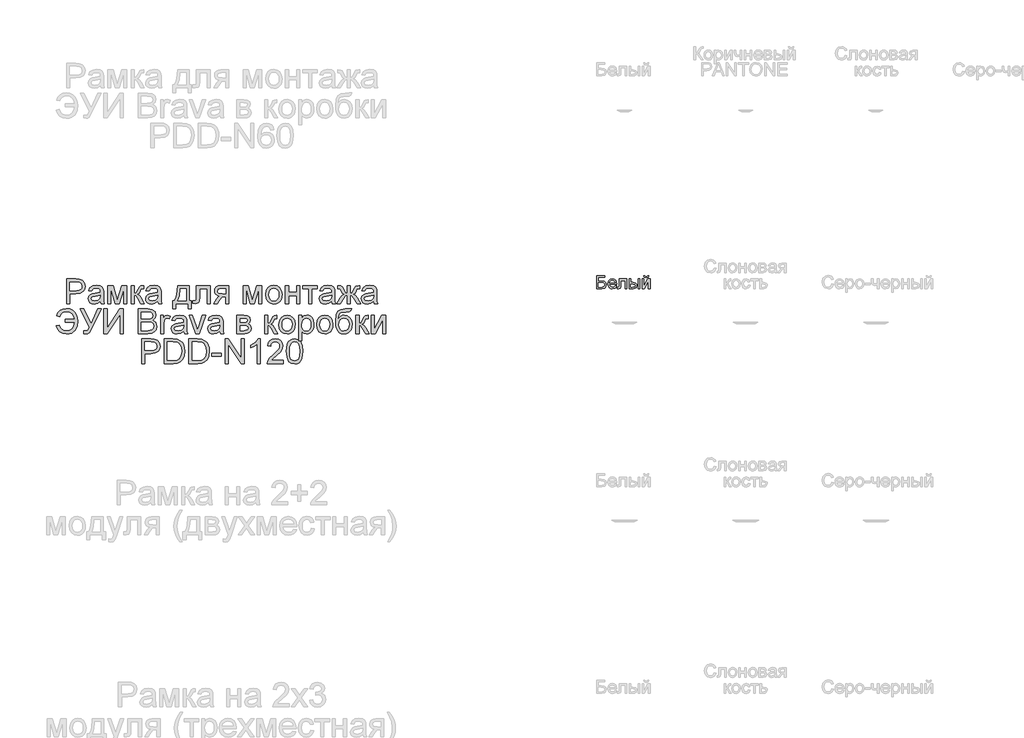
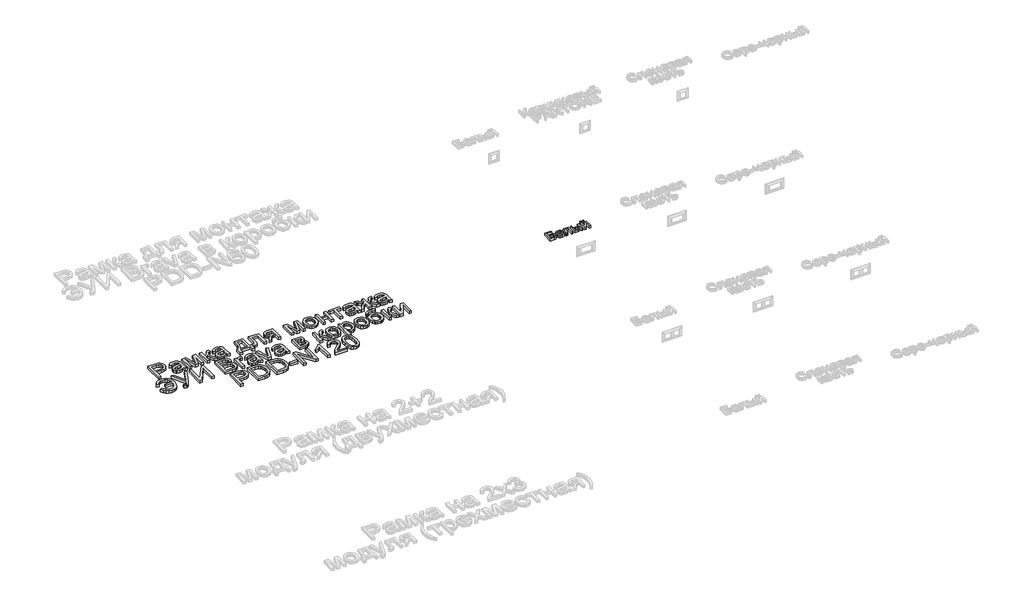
# One storey, part 42 of 47: 2 proxies.
"""IFC4 building model written with IfcOpenShell, lengths in millimetres."""

from ifc_helpers import new_model, si_unit, origin, origin_with_axes, place, context, project, spatial, polyline, outline, extrude, element, save

model = new_model("IFC4")

# Units and contexts
model_context = context("Model", 3, world=origin())
ifc_project = project(units=[si_unit("LENGTHUNIT", "METRE", prefix="MILLI")], contexts=[model_context])

# Site, building, storey
site = spatial("IfcSite", under=ifc_project)
building = spatial("IfcBuilding", under=site)
storey = spatial("IfcBuildingStorey", under=building, Name="Этаж 01", Elevation=0.0)

# Proxies
placement = place(None, origin())
element("IfcBuildingElementProxy", 1, Name="150 мм Arial", ObjectType="150 мм Arial", at=placement, inside=storey, context=model_context, shape_type="SweptSolid", body=[
    extrude(outline(polyline([(-3403.4986695, 2864.9541451), (-3403.4986695, 3015.6386103), (-3347.6541827, 3015.6386103), (-3325.1398046, 3014.2038705), (-3306.8376753, 3007.1589303), (-3294.973481, 2992.5908033), (-3290.4853206, 2972.0445939), (-3293.5157486, 2954.2850906), (-3302.6070324, 2939.4870373), (-3319.6077791, 2929.4990411), (-3346.3665957, 2926.1697091), (-3384.6631114, 2926.1697091), (-3384.6631114, 2864.9541451), (-3403.4986695, 2864.9541451)]), holes=[polyline([(-3384.6631114, 2945.0052672), (-3345.2629497, 2945.0052672), (-3328.5611071, 2946.7343126), (-3317.5246473, 2951.9214487), (-3311.3718209, 2960.2447789), (-3309.3208788, 2971.3824063), (-3314.158527, 2986.9806029), (-3326.8688499, 2995.5154652), (-3345.7044081, 2996.8030522), (-3384.6631114, 2996.8030522), (-3384.6631114, 2945.0052672)])]), origin_with_axes(), (0.0, 0.0, 1.0), 20.0),
    extrude(outline(polyline([(-3196.3075299, 2879.0808137), (-3214.5728709, 2866.3153085), (-3234.7511984, 2862.5997003), (-3250.4919492, 2864.8345834), (-3262.1032247, 2871.5392328), (-3269.263128, 2881.720367), (-3271.6497625, 2894.3847047), (-3268.0445189, 2909.2839255), (-3258.5715575, 2920.0996562), (-3245.382988, 2926.2800737), (-3229.0858156, 2929.112765), (-3196.4178945, 2935.5874882), (-3196.3075299, 2939.7813429), (-3197.6043139, 2948.1874465), (-3201.494666, 2953.6872823), (-3210.1950752, 2957.7707725), (-3222.3167869, 2959.1319359), (-3241.3730743, 2955.5082982), (-3250.4597595, 2942.6508225), (-3269.2953177, 2945.0052672), (-3261.1467315, 2963.399367), (-3244.7391945, 2974.1783095), (-3219.8887657, 2977.967494), (-3197.0616879, 2974.6197678), (-3184.167424, 2966.2136643), (-3178.3916767, 2953.4297649), (-3177.4719717, 2936.9486515), (-3177.4719717, 2913.5145685), (-3176.5154785, 2880.791465), (-3172.7630822, 2864.9541451), (-3191.5986403, 2864.9541451), (-3196.3075299, 2879.0808137)]), holes=[polyline([(-3196.3075299, 2916.75193), (-3226.6945827, 2910.9761827), (-3242.8997845, 2907.9227621), (-3250.2390304, 2902.9563552), (-3252.8142043, 2895.7090799), (-3247.2040039, 2885.5187486), (-3230.7412846, 2881.4352585), (-3211.6849973, 2885.9418129), (-3199.3977386, 2896.8495141), (-3196.4178945, 2911.4176411), (-3196.3075299, 2916.75193)])]), origin_with_axes(), (0.0, 0.0, 1.0), 20.0),
    extrude(outline(polyline([(-3151.5730792, 2975.6130492), (-3119.1626755, 2975.6130492), (-3094.183488, 2887.0270648), (-3067.2545259, 2975.6130492), (-3036.2052856, 2975.6130492), (-3036.2052856, 2864.9541451), (-3055.0408437, 2864.9541451), (-3055.0408437, 2954.0551643), (-3082.1169586, 2864.9541451), (-3106.8386286, 2864.9541451), (-3132.7375211, 2958.3225955), (-3132.7375211, 2864.9541451), (-3151.5730792, 2864.9541451), (-3151.5730792, 2975.6130492)])), origin_with_axes(), (0.0, 0.0, 1.0), 20.0),
    extrude(outline(polyline([(-3007.9519483, 2975.6130492), (-2989.1163902, 2975.6130492), (-2989.1163902, 2928.5241539), (-2976.4980377, 2931.9086682), (-2966.1605537, 2951.6271432), (-2957.5705091, 2968.6416854), (-2949.99214, 2974.1783095), (-2936.2149593, 2975.6130492), (-2932.6097157, 2975.6130492), (-2932.6097157, 2956.6671265), (-2937.6864872, 2956.7774911), (-2946.8835371, 2954.7909283), (-2953.3582602, 2942.3933051), (-2960.9550234, 2928.9840063), (-2971.6052072, 2922.4173127), (-2959.7226188, 2915.087264), (-2948.0607595, 2899.6454172), (-2927.9008262, 2864.9541451), (-2949.3115583, 2864.9541451), (-2969.0668214, 2898.9096532), (-2978.9996353, 2913.2754452), (-2989.1163902, 2916.75193), (-2989.1163902, 2864.9541451), (-3007.9519483, 2864.9541451), (-3007.9519483, 2975.6130492)])), origin_with_axes(), (0.0, 0.0, 1.0), 20.0),
    extrude(outline(polyline([(-2845.4952593, 2879.0808137), (-2863.7606003, 2866.3153085), (-2883.9389278, 2862.5997003), (-2899.6796786, 2864.8345834), (-2911.2909541, 2871.5392328), (-2918.4508574, 2881.720367), (-2920.8374919, 2894.3847047), (-2917.2322483, 2909.2839255), (-2907.7592869, 2920.0996562), (-2894.5707174, 2926.2800737), (-2878.273545, 2929.112765), (-2845.6056239, 2935.5874882), (-2845.4952593, 2939.7813429), (-2846.7920433, 2948.1874465), (-2850.6823954, 2953.6872823), (-2859.3828046, 2957.7707725), (-2871.5045163, 2959.1319359), (-2890.5608037, 2955.5082982), (-2899.6474889, 2942.6508225), (-2918.4830471, 2945.0052672), (-2910.3344609, 2963.399367), (-2893.9269239, 2974.1783095), (-2869.0764951, 2977.967494), (-2846.2494173, 2974.6197678), (-2833.3551534, 2966.2136643), (-2827.5794061, 2953.4297649), (-2826.6597011, 2936.9486515), (-2826.6597011, 2913.5145685), (-2825.7032079, 2880.791465), (-2821.9508116, 2864.9541451), (-2840.7863697, 2864.9541451), (-2845.4952593, 2879.0808137)]), holes=[polyline([(-2845.4952593, 2916.75193), (-2875.8823121, 2910.9761827), (-2892.0875139, 2907.9227621), (-2899.4267598, 2902.9563552), (-2902.0019337, 2895.7090799), (-2896.3917333, 2885.5187486), (-2879.929014, 2881.4352585), (-2860.8727267, 2885.9418129), (-2848.585468, 2896.8495141), (-2845.6056239, 2911.4176411), (-2845.4952593, 2916.75193)])]), origin_with_axes(), (0.0, 0.0, 1.0), 20.0),
    extrude(outline(polyline([(-2725.418576, 2975.6130492), (-2654.785233, 2975.6130492), (-2654.785233, 2883.7897032), (-2640.6585643, 2883.7897032), (-2640.6585643, 2834.3463631), (-2659.4941225, 2834.3463631), (-2659.4941225, 2864.9541451), (-2737.1907999, 2864.9541451), (-2737.1907999, 2834.3463631), (-2756.026358, 2834.3463631), (-2756.026358, 2883.7897032), (-2744.2541342, 2883.7897032), (-2735.6962793, 2899.2545426), (-2729.7044013, 2919.7133801), (-2725.418576, 2975.6130492)]), holes=[polyline([(-2708.9374626, 2956.7774911), (-2713.3520466, 2913.8640563), (-2723.0641313, 2883.7897032), (-2673.6207911, 2883.7897032), (-2673.6207911, 2956.7774911), (-2708.9374626, 2956.7774911)])]), origin_with_axes(), (0.0, 0.0, 1.0), 20.0),
    extrude(outline(polyline([(-2610.0507823, 2975.6130492), (-2525.2907707, 2975.6130492), (-2525.2907707, 2865.0645097), (-2544.1263288, 2865.0645097), (-2544.1263288, 2956.7774911), (-2591.2152242, 2956.7774911), (-2591.2152242, 2903.9864248), (-2592.4844171, 2879.6326367), (-2599.4557809, 2869.3503349), (-2615.9368943, 2864.9541451), (-2631.2407853, 2865.9106383), (-2631.2407853, 2883.7897032), (-2622.8162876, 2883.7897032), (-2614.2998194, 2884.9485315), (-2610.8969109, 2888.6273515), (-2610.0507823, 2905.0532826), (-2610.0507823, 2975.6130492)])), origin_with_axes(), (0.0, 0.0, 1.0), 20.0),
    extrude(outline(polyline([(-2412.2774217, 2975.6130492), (-2412.2774217, 2864.9541451), (-2431.1129799, 2864.9541451), (-2431.1129799, 2907.3341509), (-2441.3768876, 2907.3341509), (-2455.3564034, 2904.942918), (-2468.4897906, 2888.8664748), (-2483.499376, 2864.9541451), (-2505.2779901, 2864.9541451), (-2486.3688556, 2895.1940451), (-2478.0179343, 2906.0465639), (-2470.3292006, 2910.8658181), (-2483.2050704, 2914.8113525), (-2492.2549675, 2922.3069481), (-2497.6076505, 2932.2765502), (-2499.3918782, 2943.6441039), (-2496.95466, 2956.5383678), (-2489.6430053, 2966.7470932), (-2477.7144316, 2973.3965602), (-2461.4264563, 2975.6130492), (-2412.2774217, 2975.6130492)]), holes=[polyline([(-2431.1129799, 2956.7774911), (-2455.9450146, 2956.7774911), (-2468.7703006, 2955.6876407), (-2476.0497656, 2952.4180894), (-2480.55632, 2942.2093641), (-2478.8962525, 2935.0310666), (-2473.91605, 2930.0508641), (-2450.3899964, 2926.1697091), (-2431.1129799, 2926.1697091), (-2431.1129799, 2956.7774911)])]), origin_with_axes(), (0.0, 0.0, 1.0), 20.0),
    extrude(outline(polyline([(-2325.1629653, 2975.6130492), (-2292.7525615, 2975.6130492), (-2267.773374, 2887.0270648), (-2240.844412, 2975.6130492), (-2209.7951716, 2975.6130492), (-2209.7951716, 2864.9541451), (-2228.6307297, 2864.9541451), (-2228.6307297, 2954.0551643), (-2255.7068446, 2864.9541451), (-2280.4285147, 2864.9541451), (-2306.3274071, 2958.3225955), (-2306.3274071, 2864.9541451), (-2325.1629653, 2864.9541451), (-2325.1629653, 2975.6130492)])), origin_with_axes(), (0.0, 0.0, 1.0), 20.0),
    extrude(outline(polyline([(-2186.2507239, 2920.2835972), (-2182.1764308, 2946.9642389), (-2169.9535515, 2965.7170236), (-2154.8519956, 2974.9048764), (-2136.7705955, 2977.967494), (-2116.9831427, 2974.2380903), (-2101.1780125, 2963.0498791), (-2090.8175358, 2945.2857773), (-2087.3640436, 2921.8287015), (-2088.8907539, 2902.8000053), (-2093.4708847, 2888.3146518), (-2100.9710789, 2877.4667314), (-2111.2579792, 2869.3503349), (-2123.4762599, 2864.287359), (-2136.7705955, 2862.5997003), (-2156.7971717, 2866.3153085), (-2172.5839078, 2877.4621329), (-2182.8340199, 2895.5987153), (-2186.2507239, 2920.2835972)]), holes=[polyline([(-2167.4151657, 2920.3203854), (-2165.2354649, 2903.2736534), (-2158.6963625, 2891.128949), (-2148.8555191, 2883.8586811), (-2136.7705955, 2881.4352585), (-2124.7408543, 2883.8724767), (-2114.918405, 2891.1841313), (-2108.3793026, 2903.4897841), (-2106.1996018, 2920.9089966), (-2108.3930981, 2937.4590878), (-2114.9735873, 2949.4382453), (-2124.8098322, 2956.7085132), (-2136.7705955, 2959.1319359), (-2148.8555191, 2956.7177103), (-2158.6963625, 2949.4750335), (-2165.2354649, 2937.3579203), (-2167.4151657, 2920.3203854)])]), origin_with_axes(), (0.0, 0.0, 1.0), 20.0),
    extrude(outline(polyline([(-2066.1740407, 2975.6130492), (-2047.3384825, 2975.6130492), (-2047.3384825, 2933.2330434), (-1997.8951424, 2933.2330434), (-1997.8951424, 2975.6130492), (-1979.0595842, 2975.6130492), (-1979.0595842, 2864.9541451), (-1997.8951424, 2864.9541451), (-1997.8951424, 2914.3974852), (-2047.3384825, 2914.3974852), (-2047.3384825, 2864.9541451), (-2066.1740407, 2864.9541451), (-2066.1740407, 2975.6130492)])), origin_with_axes(), (0.0, 0.0, 1.0), 20.0),
    extrude(outline(polyline([(-1960.2240261, 2975.6130492), (-1870.7551248, 2975.6130492), (-1870.7551248, 2956.7774911), (-1906.0717964, 2956.7774911), (-1906.0717964, 2864.9541451), (-1924.9073545, 2864.9541451), (-1924.9073545, 2956.7774911), (-1960.2240261, 2956.7774911), (-1960.2240261, 2975.6130492)])), origin_with_axes(), (0.0, 0.0, 1.0), 20.0),
    extrude(outline(polyline([(-1783.6406684, 2879.0808137), (-1801.9060094, 2866.3153085), (-1822.0843369, 2862.5997003), (-1837.8250877, 2864.8345834), (-1849.4363632, 2871.5392328), (-1856.5962665, 2881.720367), (-1858.982901, 2894.3847047), (-1855.3776574, 2909.2839255), (-1845.9046961, 2920.0996562), (-1832.7161265, 2926.2800737), (-1816.4189541, 2929.112765), (-1783.751033, 2935.5874882), (-1783.6406684, 2939.7813429), (-1784.9374524, 2948.1874465), (-1788.8278045, 2953.6872823), (-1797.5282137, 2957.7707725), (-1809.6499254, 2959.1319359), (-1828.7062128, 2955.5082982), (-1837.7928981, 2942.6508225), (-1856.6284562, 2945.0052672), (-1848.47987, 2963.399367), (-1832.072333, 2974.1783095), (-1807.2219043, 2977.967494), (-1784.3948265, 2974.6197678), (-1771.5005625, 2966.2136643), (-1765.7248152, 2953.4297649), (-1764.8051102, 2936.9486515), (-1764.8051102, 2913.5145685), (-1763.848617, 2880.791465), (-1760.0962207, 2864.9541451), (-1778.9317788, 2864.9541451), (-1783.6406684, 2879.0808137)]), holes=[polyline([(-1783.6406684, 2916.75193), (-1814.0277212, 2910.9761827), (-1830.2329231, 2907.9227621), (-1837.5721689, 2902.9563552), (-1840.1473428, 2895.7090799), (-1834.5371424, 2885.5187486), (-1818.0744231, 2881.4352585), (-1799.0181358, 2885.9418129), (-1786.7308771, 2896.8495141), (-1783.751033, 2911.4176411), (-1783.6406684, 2916.75193)])]), origin_with_axes(), (0.0, 0.0, 1.0), 20.0),
    extrude(outline(polyline([(-1670.6273195, 2975.6130492), (-1670.6273195, 2928.5241539), (-1659.6460419, 2932.4053089), (-1649.2533755, 2952.5468481), (-1636.8557523, 2971.8606529), (-1619.2342047, 2975.6130492), (-1611.7662002, 2975.6130492), (-1611.7662002, 2956.6671265), (-1616.9533364, 2956.7774911), (-1626.665421, 2954.8277165), (-1633.3976615, 2942.6140343), (-1641.2151539, 2929.2231296), (-1652.3803725, 2922.4173127), (-1640.0655227, 2915.087264), (-1628.0633726, 2899.6454172), (-1607.0573107, 2864.9541451), (-1628.6519838, 2864.9541451), (-1649.3269519, 2899.1671706), (-1659.8667711, 2913.3858098), (-1670.6273195, 2916.75193), (-1670.6273195, 2864.9541451), (-1689.4628776, 2864.9541451), (-1689.4628776, 2916.75193), (-1700.1866378, 2913.4593862), (-1710.8000333, 2899.240747), (-1731.4750015, 2864.9541451), (-1753.0328864, 2864.9541451), (-1732.1004009, 2899.6454172), (-1720.0062803, 2915.087264), (-1707.6362482, 2922.4173127), (-1719.4820484, 2929.9221054), (-1729.6355915, 2949.2359102), (-1734.6019984, 2955.6002687), (-1742.7321905, 2956.8878557), (-1748.3239968, 2956.7774911), (-1748.3239968, 2975.6130492), (-1745.4913055, 2975.6130492), (-1728.9734039, 2974.4358269), (-1720.4017534, 2969.4326317), (-1710.8000333, 2952.5468481), (-1700.5177316, 2932.5340676), (-1689.4628776, 2928.5241539), (-1689.4628776, 2975.6130492), (-1670.6273195, 2975.6130492)])), origin_with_axes(), (0.0, 0.0, 1.0), 20.0),
    extrude(outline(polyline([(-1527.0061885, 2879.0808137), (-1545.2715296, 2866.3153085), (-1565.449857, 2862.5997003), (-1581.1906079, 2864.8345834), (-1592.8018834, 2871.5392328), (-1599.9617867, 2881.720367), (-1602.3484212, 2894.3847047), (-1598.7431776, 2909.2839255), (-1589.2702162, 2920.0996562), (-1576.0816467, 2926.2800737), (-1559.7844743, 2929.112765), (-1527.1165531, 2935.5874882), (-1527.0061885, 2939.7813429), (-1528.3029726, 2948.1874465), (-1532.1933247, 2953.6872823), (-1540.8937339, 2957.7707725), (-1553.0154456, 2959.1319359), (-1572.071733, 2955.5082982), (-1581.1584182, 2942.6508225), (-1599.9939764, 2945.0052672), (-1591.8453902, 2963.399367), (-1575.4378532, 2974.1783095), (-1550.5874244, 2977.967494), (-1527.7603466, 2974.6197678), (-1514.8660827, 2966.2136643), (-1509.0903354, 2953.4297649), (-1508.1706304, 2936.9486515), (-1508.1706304, 2913.5145685), (-1507.2141372, 2880.791465), (-1503.4617409, 2864.9541451), (-1522.297299, 2864.9541451), (-1527.0061885, 2879.0808137)]), holes=[polyline([(-1527.0061885, 2916.75193), (-1557.3932413, 2910.9761827), (-1573.5984432, 2907.9227621), (-1580.937689, 2902.9563552), (-1583.512863, 2895.7090799), (-1577.9026626, 2885.5187486), (-1561.4399433, 2881.4352585), (-1542.3836559, 2885.9418129), (-1530.0963973, 2896.8495141), (-1527.1165531, 2911.4176411), (-1527.0061885, 2916.75193)])]), origin_with_axes(), (0.0, 0.0, 1.0), 20.0),
    extrude(outline(polyline([(-3410.5620038, 2769.1063748), (-3354.0553294, 2769.1063748), (-3358.2031989, 2788.5351426), (-3368.1452098, 2803.4849472), (-3383.4307067, 2813.0176894), (-3403.6090341, 2816.1952702), (-3418.8186554, 2814.2822838), (-3430.9334693, 2808.5433247), (-3439.953476, 2798.9783928), (-3445.8786754, 2785.5874882), (-3464.7142335, 2790.2963777), (-3456.6576178, 2809.0399654), (-3443.5242306, 2823.1850281), (-3425.9486683, 2832.0693783), (-3404.5655273, 2835.0308283), (-3384.0285149, 2832.3131001), (-3366.5633172, 2824.1599154), (-3352.6895675, 2811.7806862), (-3342.926899, 2796.3848247), (-3337.1465532, 2778.5839347), (-3335.2197712, 2758.9896199), (-3338.7054531, 2728.1013279), (-3351.4433672, 2702.5381278), (-3361.2635172, 2692.5190915), (-3373.3599371, 2685.3626371), (-3387.7326268, 2681.0687644), (-3404.3815863, 2679.6374736), (-3426.9235556, 2682.7276823), (-3444.885394, 2691.9983086), (-3458.2671016, 2707.4493524), (-3467.0686783, 2729.0808137), (-3448.2331202, 2733.7897032), (-3441.8687616, 2718.3386594), (-3432.0831006, 2707.3021996), (-3418.8761369, 2700.6803237), (-3402.2478708, 2698.4730317), (-3383.4674949, 2701.9403195), (-3368.4027272, 2712.3421829), (-3358.2123959, 2728.758917), (-3354.0553294, 2750.2708166), (-3410.5620038, 2750.2708166), (-3410.5620038, 2769.1063748)])), origin_with_axes(), (0.0, 0.0, 1.0), 20.0),
    extrude(outline(polyline([(-3319.9158802, 2832.6763835), (-3299.0569711, 2832.6763835), (-3253.9914267, 2743.4282115), (-3213.4508308, 2832.6763835), (-3192.7758627, 2832.6763835), (-3249.981513, 2715.2852389), (-3265.5429214, 2686.4432905), (-3272.9281524, 2681.3389278), (-3282.9437397, 2679.6374736), (-3299.9030997, 2681.9919183), (-3299.9030997, 2698.4730317), (-3285.0774553, 2698.4730317), (-3274.0777836, 2702.6668864), (-3263.8874524, 2721.759962), (-3319.9158802, 2832.6763835)])), origin_with_axes(), (0.0, 0.0, 1.0), 20.0),
    extrude(outline(polyline([(-3175.1175269, 2832.6763835), (-3156.2819688, 2832.6763835), (-3156.2819688, 2713.3354643), (-3077.408069, 2832.6763835), (-3057.3952885, 2832.6763835), (-3057.3952885, 2681.9919183), (-3076.2308466, 2681.9919183), (-3076.2308466, 2801.0017438), (-3154.9208054, 2681.9919183), (-3175.1175269, 2681.9919183), (-3175.1175269, 2832.6763835)])), origin_with_axes(), (0.0, 0.0, 1.0), 20.0),
    extrude(outline(polyline([(-2965.5719425, 2681.9919183), (-2965.5719425, 2832.6763835), (-2908.0719866, 2832.6763835), (-2879.9106199, 2828.2434055), (-2870.4468556, 2822.6194095), (-2863.2823537, 2814.6133776), (-2857.2674831, 2795.336361), (-2862.3258605, 2777.7332076), (-2877.6113574, 2764.3974852), (-2866.9381811, 2758.824073), (-2859.0517108, 2750.344393), (-2854.1818729, 2739.5194653), (-2852.5585936, 2726.9103099), (-2856.9915716, 2706.6584061), (-2867.9728492, 2692.2374319), (-2884.361992, 2684.5854864), (-2908.513445, 2681.9919183), (-2965.5719425, 2681.9919183)]), holes=[polyline([(-2946.7363843, 2771.4608195), (-2912.3394178, 2771.4608195), (-2892.2530608, 2773.0795003), (-2880.1681373, 2780.0508641), (-2876.1030413, 2792.3197287), (-2879.8922258, 2804.6069873), (-2890.7447447, 2811.8726567), (-2914.9513799, 2813.8408254), (-2946.7363843, 2813.8408254), (-2946.7363843, 2771.4608195)]), polyline([(-2946.7363843, 2700.8274765), (-2908.1087748, 2700.8274765), (-2894.129259, 2701.5632405), (-2882.3018529, 2705.6651247), (-2874.4659664, 2714.0344401), (-2871.3941517, 2726.7263689), (-2874.9993953, 2741.3680723), (-2886.6796486, 2750.1052697), (-2909.9481848, 2752.6252614), (-2946.7363843, 2752.6252614), (-2946.7363843, 2700.8274765)])]), origin_with_axes(), (0.0, 0.0, 1.0), 20.0),
    extrude(outline(polyline([(-2829.0141459, 2681.9919183), (-2829.0141459, 2792.6508225), (-2812.5330325, 2792.6508225), (-2812.5330325, 2776.2800737), (-2800.834385, 2791.3632355), (-2789.0621612, 2795.0052672), (-2770.1530266, 2789.1927317), (-2776.4438088, 2772.3069481), (-2789.6875606, 2776.1697091), (-2800.3377443, 2772.4541009), (-2807.1251672, 2762.1534051), (-2810.1785877, 2740.1540618), (-2810.1785877, 2681.9919183), (-2829.0141459, 2681.9919183)])), origin_with_axes(), (0.0, 0.0, 1.0), 20.0),
    extrude(outline(polyline([(-2687.7474597, 2696.1185869), (-2706.0128008, 2683.3530817), (-2726.1911282, 2679.6374736), (-2741.9318791, 2681.8723567), (-2753.5431546, 2688.577006), (-2760.7030579, 2698.7581402), (-2763.0896923, 2711.4224779), (-2759.4844488, 2726.3216987), (-2750.0114874, 2737.1374294), (-2736.8229179, 2743.3178469), (-2720.5257455, 2746.1505383), (-2687.8578243, 2752.6252614), (-2687.7474597, 2756.8191161), (-2689.0442438, 2765.2252197), (-2692.9345959, 2770.7250556), (-2701.635005, 2774.8085457), (-2713.7567168, 2776.1697091), (-2732.8130041, 2772.5460714), (-2741.8996894, 2759.6885957), (-2760.7352476, 2762.0430405), (-2752.5866614, 2780.4371402), (-2736.1791244, 2791.2160827), (-2711.3286956, 2795.0052672), (-2688.5016178, 2791.6575411), (-2675.6073539, 2783.2514375), (-2669.8316066, 2770.4675382), (-2668.9119016, 2753.9864248), (-2668.9119016, 2730.5523417), (-2667.9554084, 2697.8292382), (-2664.203012, 2681.9919183), (-2683.0385702, 2681.9919183), (-2687.7474597, 2696.1185869)]), holes=[polyline([(-2687.7474597, 2733.7897032), (-2718.1345125, 2728.0139559), (-2734.3397144, 2724.9605354), (-2741.6789602, 2719.9941284), (-2744.2541342, 2712.7468531), (-2738.6439338, 2702.5565219), (-2722.1812145, 2698.4730317), (-2703.1249271, 2702.9795861), (-2690.8376685, 2713.8872873), (-2687.8578243, 2728.4554143), (-2687.7474597, 2733.7897032)])]), origin_with_axes(), (0.0, 0.0, 1.0), 20.0),
    extrude(outline(polyline([(-2615.8633179, 2681.9919183), (-2654.785233, 2792.6508225), (-2634.8460288, 2792.6508225), (-2611.2647929, 2726.3584869), (-2604.1646704, 2704.064838), (-2597.2117007, 2725.1076882), (-2573.483312, 2792.6508225), (-2553.5441079, 2792.6508225), (-2591.9877764, 2681.9919183), (-2615.8633179, 2681.9919183)])), origin_with_axes(), (0.0, 0.0, 1.0), 20.0),
    extrude(outline(polyline([(-2466.4296514, 2696.1185869), (-2484.6949925, 2683.3530817), (-2504.8733199, 2679.6374736), (-2520.6140708, 2681.8723567), (-2532.2253463, 2688.577006), (-2539.3852496, 2698.7581402), (-2541.771884, 2711.4224779), (-2538.1666405, 2726.3216987), (-2528.6936791, 2737.1374294), (-2515.5051096, 2743.3178469), (-2499.2079372, 2746.1505383), (-2466.540016, 2752.6252614), (-2466.4296514, 2756.8191161), (-2467.7264355, 2765.2252197), (-2471.6167876, 2770.7250556), (-2480.3171967, 2774.8085457), (-2492.4389085, 2776.1697091), (-2511.4951958, 2772.5460714), (-2520.5818811, 2759.6885957), (-2539.4174393, 2762.0430405), (-2531.2688531, 2780.4371402), (-2514.8613161, 2791.2160827), (-2490.0108873, 2795.0052672), (-2467.1838095, 2791.6575411), (-2454.2895456, 2783.2514375), (-2448.5137983, 2770.4675382), (-2447.5940933, 2753.9864248), (-2447.5940933, 2730.5523417), (-2446.6376001, 2697.8292382), (-2442.8852037, 2681.9919183), (-2461.7207619, 2681.9919183), (-2466.4296514, 2696.1185869)]), holes=[polyline([(-2466.4296514, 2733.7897032), (-2496.8167042, 2728.0139559), (-2513.0219061, 2724.9605354), (-2520.3611519, 2719.9941284), (-2522.9363259, 2712.7468531), (-2517.3261255, 2702.5565219), (-2500.8634062, 2698.4730317), (-2481.8071188, 2702.9795861), (-2469.5198602, 2713.8872873), (-2466.540016, 2728.4554143), (-2466.4296514, 2733.7897032)])]), origin_with_axes(), (0.0, 0.0, 1.0), 20.0),
    extrude(outline(polyline([(-2362.8340816, 2792.6508225), (-2321.3369925, 2792.6508225), (-2298.5834911, 2790.1308308), (-2285.7811977, 2780.8969927), (-2280.4285147, 2764.8021554), (-2283.6658762, 2751.7239505), (-2293.4147491, 2742.3981419), (-2280.7596085, 2732.1894166), (-2275.7196251, 2714.4391103), (-2278.9110014, 2700.0825154), (-2286.4985676, 2689.9749576), (-2298.5099147, 2683.9876781), (-2314.972634, 2681.9919183), (-2362.8340816, 2681.9919183), (-2362.8340816, 2792.6508225)]), holes=[polyline([(-2343.9985234, 2750.2708166), (-2325.3836945, 2750.2708166), (-2310.0246212, 2751.2273098), (-2302.5566167, 2755.0532826), (-2299.2640728, 2761.9694641), (-2300.7080096, 2767.5888615), (-2305.0398201, 2771.2033022), (-2324.7950833, 2773.8152643), (-2343.9985234, 2773.8152643), (-2343.9985234, 2750.2708166)]), polyline([(-2343.9985234, 2700.8274765), (-2320.8955341, 2700.8274765), (-2300.404507, 2704.2303849), (-2296.164667, 2708.8702966), (-2294.5551833, 2715.9842147), (-2297.7741507, 2725.0525059), (-2306.1618602, 2730.3316125), (-2322.7349441, 2731.4352585), (-2343.9985234, 2731.4352585), (-2343.9985234, 2700.8274765)])]), origin_with_axes(), (0.0, 0.0, 1.0), 20.0),
    extrude(outline(polyline([(-2193.3140582, 2792.6508225), (-2174.4785001, 2792.6508225), (-2174.4785001, 2745.5619271), (-2161.8601476, 2748.9464414), (-2151.5226636, 2768.6649164), (-2142.932619, 2785.6794587), (-2135.3542499, 2791.2160827), (-2121.5770691, 2792.6508225), (-2117.9718256, 2792.6508225), (-2117.9718256, 2773.7048997), (-2123.0485971, 2773.8152643), (-2132.245647, 2771.8287015), (-2138.7203701, 2759.4310783), (-2146.3171333, 2746.0217796), (-2156.9673171, 2739.455086), (-2145.0847286, 2732.1250372), (-2133.4228694, 2716.6831905), (-2113.2629361, 2681.9919183), (-2134.6736682, 2681.9919183), (-2154.4289313, 2715.9474265), (-2164.3617452, 2730.3132184), (-2174.4785001, 2733.7897032), (-2174.4785001, 2681.9919183), (-2193.3140582, 2681.9919183), (-2193.3140582, 2792.6508225)])), origin_with_axes(), (0.0, 0.0, 1.0), 20.0),
    extrude(outline(polyline([(-2106.1996018, 2737.3213704), (-2102.1253087, 2764.0020121), (-2089.9024294, 2782.7547968), (-2074.8008735, 2791.9426496), (-2056.7194734, 2795.0052672), (-2036.9320206, 2791.2758635), (-2021.1268904, 2780.0876523), (-2010.7664137, 2762.3235505), (-2007.3129214, 2738.8664748), (-2008.8396317, 2719.8377786), (-2013.4197626, 2705.352425), (-2020.9199567, 2694.5045047), (-2031.206857, 2686.3881082), (-2043.4251378, 2681.3251322), (-2056.7194734, 2679.6374736), (-2076.7460495, 2683.3530817), (-2092.5327856, 2694.4999062), (-2102.7828977, 2712.6364885), (-2106.1996018, 2737.3213704)]), holes=[polyline([(-2087.3640436, 2737.3581586), (-2085.1843428, 2720.3114266), (-2078.6452403, 2708.1667223), (-2068.8043969, 2700.8964543), (-2056.7194734, 2698.4730317), (-2044.6897322, 2700.9102499), (-2034.8672829, 2708.2219046), (-2028.3281804, 2720.5275573), (-2026.1484796, 2737.9467698), (-2028.341976, 2754.496861), (-2034.9224652, 2766.4760185), (-2044.75871, 2773.7462864), (-2056.7194734, 2776.1697091), (-2068.8043969, 2773.7554835), (-2078.6452403, 2766.5128067), (-2085.1843428, 2754.3956935), (-2087.3640436, 2737.3581586)])]), origin_with_axes(), (0.0, 0.0, 1.0), 20.0),
    extrude(outline(polyline([(-1986.1229185, 2639.6119125), (-1986.1229185, 2792.6508225), (-1967.2873604, 2792.6508225), (-1967.2873604, 2774.1831463), (-1954.2643377, 2789.799737), (-1936.6795784, 2795.0052672), (-1923.9416643, 2793.1842514), (-1912.8040369, 2787.7212037), (-1903.7357457, 2778.9472181), (-1897.2058403, 2767.1933884), (-1891.9451278, 2738.167499), (-1893.4304513, 2722.0588661), (-1897.886422, 2707.6516875), (-1905.1704855, 2695.6771285), (-1915.1400876, 2686.8663548), (-1926.751363, 2681.4446939), (-1938.9604467, 2679.6374736), (-1955.3495896, 2684.4751218), (-1967.2873604, 2696.7071981), (-1967.2873604, 2639.6119125), (-1986.1229185, 2639.6119125)]), holes=[polyline([(-1967.2873604, 2736.4384536), (-1965.2502138, 2719.55267), (-1959.1387742, 2707.743658), (-1950.1210668, 2700.7906883), (-1939.3651169, 2698.4730317), (-1928.4344232, 2700.8734617), (-1919.1867895, 2708.0747518), (-1912.8822118, 2720.3160252), (-1910.7806859, 2737.8364052), (-1912.831628, 2754.6302183), (-1918.9844544, 2766.6047772), (-1927.9883662, 2773.7784761), (-1938.5925647, 2776.1697091), (-1949.23815, 2773.6267248), (-1958.5869512, 2765.9977719), (-1965.1122581, 2753.5219738), (-1967.2873604, 2736.4384536)])]), origin_with_axes(), (0.0, 0.0, 1.0), 20.0),
    extrude(outline(polyline([(-1875.4640144, 2737.3213704), (-1871.3897213, 2764.0020121), (-1859.166842, 2782.7547968), (-1844.0652861, 2791.9426496), (-1825.983886, 2795.0052672), (-1806.1964332, 2791.2758635), (-1790.391303, 2780.0876523), (-1780.0308263, 2762.3235505), (-1776.5773341, 2738.8664748), (-1778.1040444, 2719.8377786), (-1782.6841752, 2705.352425), (-1790.1843694, 2694.5045047), (-1800.4712697, 2686.3881082), (-1812.6895504, 2681.3251322), (-1825.983886, 2679.6374736), (-1846.0104621, 2683.3530817), (-1861.7971983, 2694.4999062), (-1872.0473103, 2712.6364885), (-1875.4640144, 2737.3213704)]), holes=[polyline([(-1856.6284562, 2737.3581586), (-1854.4487554, 2720.3114266), (-1847.9096529, 2708.1667223), (-1838.0688096, 2700.8964543), (-1825.983886, 2698.4730317), (-1813.9541448, 2700.9102499), (-1804.1316955, 2708.2219046), (-1797.592593, 2720.5275573), (-1795.4128922, 2737.9467698), (-1797.6063886, 2754.496861), (-1804.1868778, 2766.4760185), (-1814.0231227, 2773.7462864), (-1825.983886, 2776.1697091), (-1838.0688096, 2773.7554835), (-1847.9096529, 2766.5128067), (-1854.4487554, 2754.3956935), (-1856.6284562, 2737.3581586)])]), origin_with_axes(), (0.0, 0.0, 1.0), 20.0),
    extrude(outline(polyline([(-1677.6906538, 2835.0308283), (-1661.2095404, 2835.0308283), (-1666.0655827, 2820.3339426), (-1675.6673028, 2815.0180478), (-1698.7335039, 2813.8408254), (-1729.8011384, 2809.4998178), (-1736.928852, 2803.8528292), (-1741.720515, 2795.5938784), (-1745.7488229, 2770.982573), (-1729.4332564, 2789.0087907), (-1719.5142381, 2793.5061481), (-1708.4088004, 2795.0052672), (-1688.8098871, 2791.1930901), (-1672.9081878, 2779.7565585), (-1662.3683687, 2761.8177127), (-1658.8550956, 2738.4985928), (-1660.5979366, 2720.5183603), (-1665.8264594, 2706.088189), (-1682.3627551, 2686.535261), (-1693.6567324, 2681.3619204), (-1708.4088004, 2679.6374736), (-1725.4095471, 2681.8585611), (-1738.1520597, 2688.5218237), (-1747.528452, 2698.6477757), (-1754.430838, 2711.256931), (-1758.679875, 2730.2442405), (-1760.0962207, 2759.5046547), (-1756.5231668, 2795.6444622), (-1745.8040052, 2817.6851922), (-1727.6720213, 2828.9285857), (-1701.8605009, 2832.6763835), (-1680.8912271, 2833.0994478), (-1677.6906538, 2835.0308283)]), holes=[polyline([(-1677.6906538, 2739.087204), (-1679.7323988, 2753.9082499), (-1685.8576341, 2765.7770427), (-1695.6984774, 2773.5715425), (-1708.887047, 2776.1697091), (-1722.6366365, 2773.4243897), (-1732.8361648, 2765.1884315), (-1739.1545381, 2752.3631455), (-1741.2606625, 2735.8498424), (-1738.9338089, 2719.8423771), (-1731.9532481, 2708.0931459), (-1721.5605817, 2700.8780602), (-1708.9974116, 2698.4730317), (-1696.3698621, 2701.2551393), (-1686.3726689, 2709.6014621), (-1679.8611575, 2722.5371127), (-1677.6906538, 2739.087204)])]), origin_with_axes(), (0.0, 0.0, 1.0), 20.0),
    extrude(outline(polyline([(-1635.3106479, 2792.6508225), (-1616.4750898, 2792.6508225), (-1616.4750898, 2745.5619271), (-1603.8567373, 2748.9464414), (-1593.5192533, 2768.6649164), (-1584.9292087, 2785.6794587), (-1577.3508396, 2791.2160827), (-1563.5736589, 2792.6508225), (-1559.9684153, 2792.6508225), (-1559.9684153, 2773.7048997), (-1565.0451868, 2773.8152643), (-1574.2422367, 2771.8287015), (-1580.7169598, 2759.4310783), (-1588.313723, 2746.0217796), (-1598.9639068, 2739.455086), (-1587.0813184, 2732.1250372), (-1575.4194591, 2716.6831905), (-1555.2595258, 2681.9919183), (-1576.6702579, 2681.9919183), (-1596.425521, 2715.9474265), (-1606.3583349, 2730.3132184), (-1616.4750898, 2733.7897032), (-1616.4750898, 2681.9919183), (-1635.3106479, 2681.9919183), (-1635.3106479, 2792.6508225)])), origin_with_axes(), (0.0, 0.0, 1.0), 20.0),
    extrude(outline(polyline([(-1543.4873019, 2792.6508225), (-1524.6517438, 2792.6508225), (-1524.6517438, 2708.2586928), (-1478.3721888, 2792.6508225), (-1454.0184007, 2792.6508225), (-1454.0184007, 2681.9919183), (-1472.8539589, 2681.9919183), (-1472.8539589, 2765.8690132), (-1518.8392083, 2681.9919183), (-1543.4873019, 2681.9919183), (-1543.4873019, 2792.6508225)])), origin_with_axes(), (0.0, 0.0, 1.0), 20.0),
    extrude(outline(polyline([(-2945.5591619, 2499.0296916), (-2945.5591619, 2649.7141568), (-2889.7146751, 2649.7141568), (-2867.200297, 2648.279417), (-2848.8981677, 2641.2344768), (-2837.0339734, 2626.6663498), (-2832.545813, 2606.1201403), (-2835.576241, 2588.360637), (-2844.6675248, 2573.5625838), (-2861.6682715, 2563.5745876), (-2888.4270881, 2560.2452555), (-2926.7236038, 2560.2452555), (-2926.7236038, 2499.0296916), (-2945.5591619, 2499.0296916)]), holes=[polyline([(-2926.7236038, 2579.0808137), (-2887.3234421, 2579.0808137), (-2870.6215995, 2580.8098591), (-2859.5851397, 2585.9969952), (-2853.4323133, 2594.3203254), (-2851.3813712, 2605.4579528), (-2856.2190194, 2621.0561494), (-2868.9293424, 2629.5910116), (-2887.7649005, 2630.8785986), (-2926.7236038, 2630.8785986), (-2926.7236038, 2579.0808137)])]), origin_with_axes(), (0.0, 0.0, 1.0), 20.0),
    extrude(outline(polyline([(-2806.6469206, 2499.0296916), (-2806.6469206, 2649.7141568), (-2754.6651946, 2649.7141568), (-2727.7730208, 2647.543653), (-2705.6265247, 2636.7647105), (-2695.2062672, 2625.2867923), (-2687.7842479, 2611.0129709), (-2683.3420728, 2594.2191578), (-2681.8613478, 2575.1812646), (-2685.8712616, 2544.7758177), (-2696.1719574, 2522.8316566), (-2709.930744, 2509.1648405), (-2727.9385677, 2501.6048655), (-2752.1635971, 2499.0296916), (-2806.6469206, 2499.0296916)]), holes=[polyline([(-2787.8113624, 2517.8652497), (-2754.4812537, 2517.8652497), (-2730.2378302, 2520.5875765), (-2716.2583144, 2528.2763102), (-2704.7987902, 2546.9831096), (-2700.696906, 2575.4755701), (-2702.7064614, 2596.0033855), (-2708.7351276, 2611.1601237), (-2717.6424704, 2621.5711841), (-2728.2880556, 2627.8619663), (-2754.9962884, 2630.8785986), (-2787.8113624, 2630.8785986), (-2787.8113624, 2517.8652497)])]), origin_with_axes(), (0.0, 0.0, 1.0), 20.0),
    extrude(outline(polyline([(-2655.9624553, 2499.0296916), (-2655.9624553, 2649.7141568), (-2603.9807294, 2649.7141568), (-2577.0885556, 2647.543653), (-2554.9420595, 2636.7647105), (-2544.521802, 2625.2867923), (-2537.0997827, 2611.0129709), (-2532.6576076, 2594.2191578), (-2531.1768826, 2575.1812646), (-2535.1867963, 2544.7758177), (-2545.4874922, 2522.8316566), (-2559.2462788, 2509.1648405), (-2577.2541025, 2501.6048655), (-2601.4791319, 2499.0296916), (-2655.9624553, 2499.0296916)]), holes=[polyline([(-2637.1268972, 2517.8652497), (-2603.7967884, 2517.8652497), (-2579.5533649, 2520.5875765), (-2565.5738491, 2528.2763102), (-2554.114325, 2546.9831096), (-2550.0124407, 2575.4755701), (-2552.0219961, 2596.0033855), (-2558.0506623, 2611.1601237), (-2566.9580051, 2621.5711841), (-2577.6035904, 2627.8619663), (-2604.3118232, 2630.8785986), (-2637.1268972, 2630.8785986), (-2637.1268972, 2517.8652497)])]), origin_with_axes(), (0.0, 0.0, 1.0), 20.0),
    extrude(outline(polyline([(-2517.050214, 2543.7641422), (-2517.050214, 2562.5997003), (-2458.1890947, 2562.5997003), (-2458.1890947, 2543.7641422), (-2517.050214, 2543.7641422)])), origin_with_axes(), (0.0, 0.0, 1.0), 20.0),
    extrude(outline(polyline([(-2434.644647, 2499.0296916), (-2434.644647, 2649.7141568), (-2414.4847137, 2649.7141568), (-2335.7579667, 2530.3364493), (-2335.7579667, 2649.7141568), (-2316.9224086, 2649.7141568), (-2316.9224086, 2499.0296916), (-2337.0823419, 2499.0296916), (-2415.8090889, 2618.4441872), (-2415.8090889, 2499.0296916), (-2434.644647, 2499.0296916)])), origin_with_axes(), (0.0, 0.0, 1.0), 20.0),
    extrude(outline(polyline([(-2220.3901731, 2499.0296916), (-2239.2257312, 2499.0296916), (-2239.2257312, 2616.4576244), (-2257.068008, 2603.7473015), (-2276.8968475, 2594.2375519), (-2276.8968475, 2612.0430405), (-2249.2873038, 2629.664588), (-2232.5302789, 2649.7141568), (-2220.3901731, 2649.7141568), (-2220.3901731, 2499.0296916)])), origin_with_axes(), (0.0, 0.0, 1.0), 20.0),
    extrude(outline(polyline([(-2079.1234869, 2517.8652497), (-2079.1234869, 2499.0296916), (-2178.0101672, 2499.0296916), (-2175.9868162, 2512.015926), (-2164.5456862, 2532.0103124), (-2140.9644503, 2553.8441088), (-2108.4436819, 2585.224443), (-2102.3460379, 2596.0401737), (-2100.3134898, 2606.5615987), (-2102.2310747, 2615.9931734), (-2107.9838294, 2623.8336584), (-2116.8267929, 2629.1173636), (-2128.0150041, 2630.8785986), (-2139.7642353, 2629.1587503), (-2148.8923073, 2623.9992053), (-2154.7830177, 2615.8046339), (-2156.8201643, 2604.9797062), (-2175.6557224, 2607.3341509), (-2171.0893872, 2625.5535067), (-2161.2163541, 2638.8616379), (-2146.5516581, 2647.0010271), (-2127.6103339, 2649.7141568), (-2108.5310539, 2646.6975244), (-2093.893949, 2637.6476273), (-2084.581936, 2624.127964), (-2081.4779317, 2607.7020329), (-2084.8256578, 2589.8413621), (-2095.9540882, 2571.3736859), (-2122.9382325, 2545.5667639), (-2144.606482, 2527.4485757), (-2153.1045561, 2517.8652497), (-2079.1234869, 2517.8652497)])), origin_with_axes(), (0.0, 0.0, 1.0), 20.0),
    extrude(outline(polyline([(-2060.2879288, 2573.1579136), (-2058.9037727, 2597.2771769), (-2054.7513047, 2616.5128067), (-2047.8719114, 2631.1591086), (-2038.3069795, 2641.5103883), (-2025.9875312, 2647.6632147), (-2010.8445886, 2649.7141568), (-1988.8452453, 2644.8581144), (-1973.6517189, 2630.8602045), (-1964.822551, 2608.5665556), (-1961.4012484, 2573.1579136), (-1962.7716089, 2549.176606), (-1966.8826902, 2529.9869614), (-1973.7206968, 2515.3268639), (-1983.2718331, 2504.9341976), (-1995.6188725, 2498.7399845), (-2010.8445886, 2496.6752468), (-2030.4159107, 2500.2620962), (-2045.2783433, 2511.0226446), (-2056.5355324, 2536.5076698), (-2060.2879288, 2573.1579136)]), holes=[polyline([(-2041.4523706, 2573.1947018), (-2039.2450786, 2543.5664056), (-2032.6232027, 2526.4185061), (-2022.7639652, 2518.2377302), (-2010.8445886, 2515.5108049), (-1998.925212, 2518.2469273), (-1989.0659745, 2526.4552943), (-1982.4440986, 2543.6123908), (-1980.2368066, 2573.1947018), (-1982.3705222, 2602.1562118), (-1988.7716689, 2619.4374686), (-1998.6125123, 2628.0183161), (-2011.0653178, 2630.8785986), (-2022.8559357, 2628.358607), (-2032.3288971, 2620.798632), (-2039.1715022, 2602.4413204), (-2041.4523706, 2573.1947018)])]), origin_with_axes(), (0.0, 0.0, 1.0), 20.0),
])
element("IfcBuildingElementProxy", 2, Name="80 мм Arial", ObjectType="80 мм Arial", at=placement, inside=storey, context=model_context, shape_type="SweptSolid", body=[
    extrude(outline(polyline([(-164.9738634, 3036.9426693), (-114.7457083, 3036.9426693), (-114.7457083, 3026.8970382), (-154.9282324, 3026.8970382), (-154.9282324, 3003.0386646), (-136.1122946, 3003.0386646), (-119.5330794, 3000.9981458), (-109.6640317, 2993.2873392), (-105.9557812, 2980.1024485), (-108.5947214, 2968.6539608), (-116.4723012, 2959.9523253), (-134.3072203, 2956.5776211), (-164.9738634, 2956.5776211), (-164.9738634, 3036.9426693)]), holes=[polyline([(-154.9282324, 2966.6232522), (-133.4046831, 2966.6232522), (-120.357135, 2969.9390952), (-116.0014122, 2979.8866244), (-118.4931996, 2987.754394), (-125.4290015, 2991.9531538), (-140.5661193, 2992.9930336), (-154.9282324, 2992.9930336), (-154.9282324, 2966.6232522)])]), origin_with_axes(), (0.0, 0.0, 1.0), 20.0),
    extrude(outline(polyline([(-52.0782367, 2974.1574754), (-42.2288094, 2972.9017715), (-51.4405746, 2959.9327049), (-68.5985909, 2955.3219173), (-80.38553, 2957.3109326), (-89.4550474, 2963.2779785), (-95.2381524, 2972.8355528), (-97.1658541, 2985.5961529), (-95.218532, 2998.7859487), (-89.3765659, 3008.6500913), (-80.4296758, 3014.8010782), (-69.1675817, 3016.8514072), (-58.2562017, 3014.8059833), (-49.5373984, 3008.6697117), (-43.8205122, 2998.8251895), (-41.9148835, 2985.655014), (-41.9737446, 2982.9474026), (-87.120223, 2982.9474026), (-81.3420232, 2969.8998545), (-68.4023871, 2965.3675483), (-58.5529598, 2967.4669282), (-52.0782367, 2974.1574754)]), holes=[polyline([(-87.120223, 2992.9930336), (-51.9605145, 2992.9930336), (-55.982691, 3002.0968867), (-69.2068224, 3006.8057762), (-81.5774676, 3003.0484748), (-87.120223, 2992.9930336)])]), origin_with_axes(), (0.0, 0.0, 1.0), 20.0),
    extrude(outline(polyline([(-26.8464369, 3015.5957034), (18.3589026, 3015.5957034), (18.3589026, 2956.6364823), (8.3132716, 2956.6364823), (8.3132716, 3005.5500723), (-16.8008059, 3005.5500723), (-16.8008059, 2977.394837), (-17.4777088, 2964.40615), (-21.1957695, 2958.9222557), (-29.9856966, 2956.5776211), (-38.1477718, 2957.0877508), (-38.1477718, 2966.6232522), (-33.6547064, 2966.6232522), (-29.11259, 2967.2412939), (-27.2977055, 2969.2033312), (-26.8464369, 2977.9638278), (-26.8464369, 3015.5957034)])), origin_with_axes(), (0.0, 0.0, 1.0), 20.0),
    extrude(outline(polyline([(33.4273491, 3015.5957034), (43.4729802, 3015.5957034), (43.4729802, 2994.2487374), (55.8926763, 2994.2487374), (74.5810817, 2989.2161118), (79.5033428, 2983.2294454), (81.1440965, 2975.3346978), (75.6405818, 2962.0811358), (68.4914084, 2957.9534998), (58.0509174, 2956.5776211), (33.4273491, 2956.5776211), (33.4273491, 3015.5957034)]), holes=[polyline([(43.4729802, 2966.6232522), (53.7932964, 2966.6232522), (67.1155297, 2968.7324423), (71.0984654, 2975.3150774), (68.1455993, 2981.4954949), (55.1078614, 2984.2031064), (43.4729802, 2984.2031064), (43.4729802, 2966.6232522)])]), origin_with_axes(), (0.0, 0.0, 1.0), 20.0),
    extrude(outline(polyline([(88.6783197, 3015.5957034), (98.7239507, 3015.5957034), (98.7239507, 2956.5776211), (88.6783197, 2956.5776211), (88.6783197, 3015.5957034)])), origin_with_axes(), (0.0, 0.0, 1.0), 20.0),
    extrude(outline(polyline([(113.7923973, 3015.5957034), (123.8380283, 3015.5957034), (123.8380283, 2970.5865675), (148.5204576, 3015.5957034), (161.5091446, 3015.5957034), (161.5091446, 2956.5776211), (151.4635136, 2956.5776211), (151.4635136, 3001.3120718), (126.9380472, 2956.5776211), (113.7923973, 2956.5776211), (113.7923973, 3015.5957034)])), origin_with_axes(), (0.0, 0.0, 1.0), 20.0),
    extrude(outline(polyline([(146.4406981, 3036.9426693), (153.9749213, 3036.9426693), (149.0992586, 3025.7688668), (138.2786229, 3021.8742227), (126.5652601, 3025.7394362), (121.3266205, 3036.9426693), (128.8608438, 3036.9426693), (131.6861775, 3031.2821916), (137.3760857, 3029.408446), (143.6153643, 3031.2233305), (146.4406981, 3036.9426693)])), origin_with_axes(), (0.0, 0.0, 1.0), 20.0),
])

save(model, "model.ifc")
